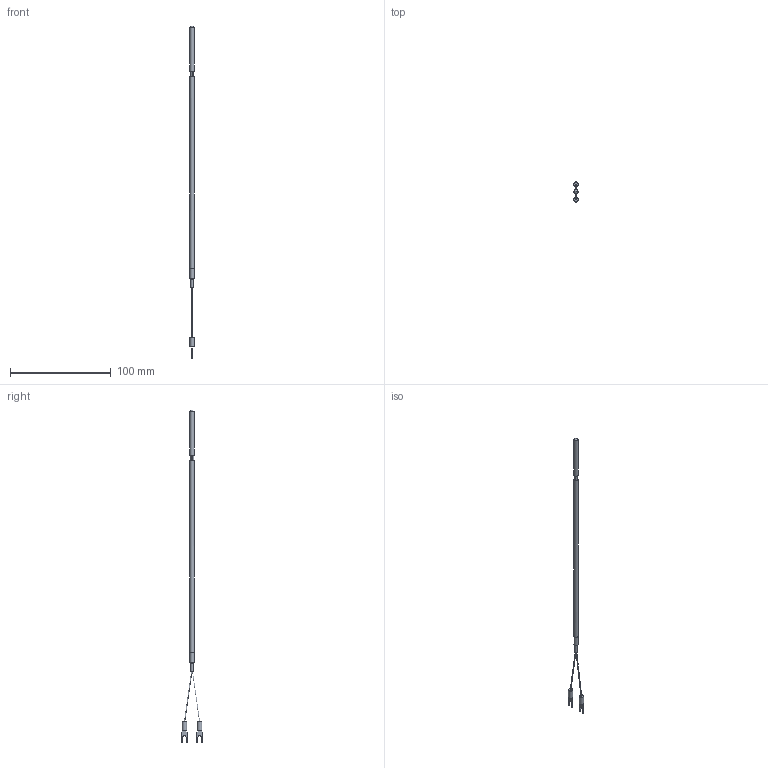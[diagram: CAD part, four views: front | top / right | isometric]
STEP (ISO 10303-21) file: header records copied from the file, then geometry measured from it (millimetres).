
FILE_DESCRIPTION (( 'STEP AP203' ), '1' );
FILE_NAME ('YIT102-4(0).STEP', '2024-03-26T02:45:39', ( '' ), ( '' ), 'SwSTEP 2.0', 'SolidWorks 2021', '' );
FILE_SCHEMA (( 'CONFIG_CONTROL_DESIGN' ));
Length unit declared in the file: millimetre
Products named in the file (1): YIT102-4(0)
Bounding box: 4.5 x 20.85 x 329 mm (x, y, z)
Volume: 3562.4 mm3; surface area: 4000.9 mm2
Topology: 1 solids, 1 shells, 70 faces, 158 edges, 96 vertices
Faces by surface type: plane 44, cylinder 20, cone 4, bspline 2
Full cylindrical faces by diameter (mm): 2.36 x1, 4 x2, 4.2 x1, 4.5 x2
Entity records: 1933 total; most frequent: DIRECTION 336, CARTESIAN_POINT 331, ORIENTED_EDGE 284, EDGE_CURVE 142, AXIS2_PLACEMENT_3D 125, VERTEX_POINT 92, EDGE_LOOP 88, VECTOR 86
